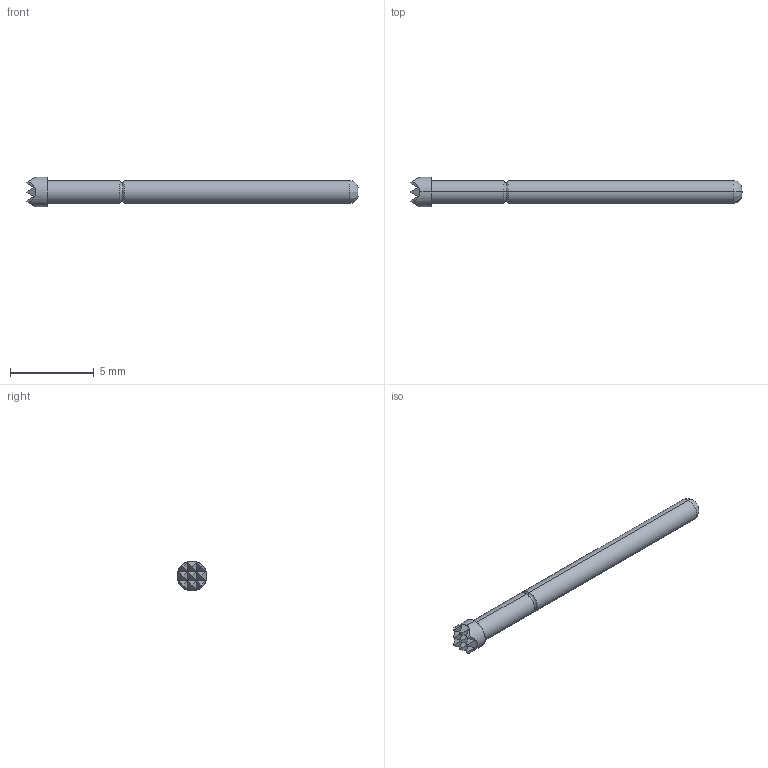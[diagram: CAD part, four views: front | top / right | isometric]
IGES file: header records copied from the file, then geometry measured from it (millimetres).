
Start section: SolidWorks IGES file using analytic representation for surfaces
Global section: file name: O:\PYLON\IGES FILES\P2664\P2664G-1W1S FULL.IGS; native system: SolidWorks 2015; preprocessor: SolidWorks 2015; author: kgolden; date: 171019.120254; units: inch
Bounding box: 19.83 x 1.78 x 1.78 mm (x, y, z)
Surface area: 96.6 mm2 (no closed solid volume)
Topology: 0 solids, 0 shells, 47 faces, 302 edges, 302 vertices
Faces by surface type: bspline 37, revolution 10
